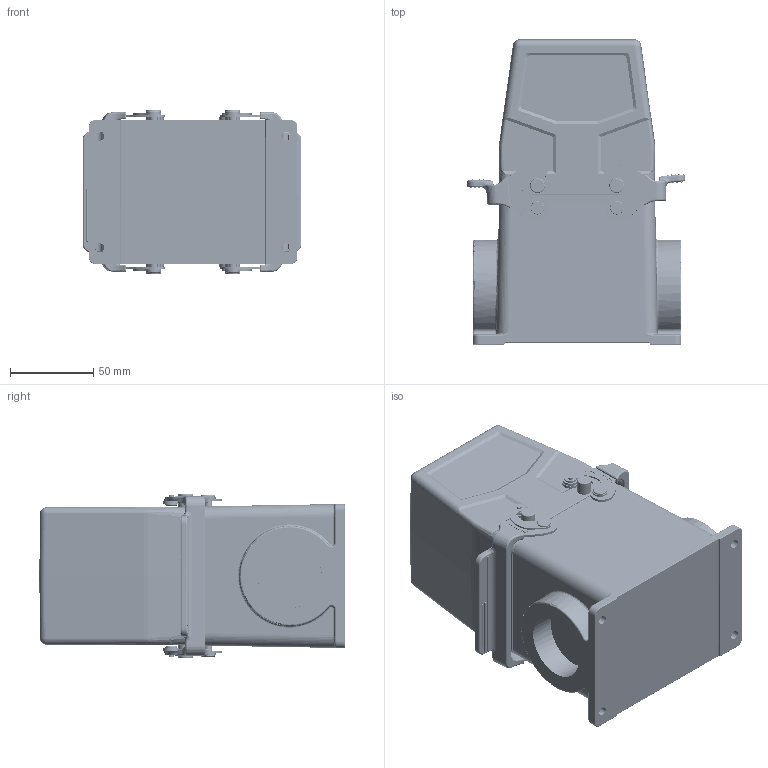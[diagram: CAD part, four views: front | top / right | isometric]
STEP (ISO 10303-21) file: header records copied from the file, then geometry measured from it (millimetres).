
FILE_DESCRIPTION (( 'STEP AP214' ), '1' );
FILE_NAME ('09132103232 HESH、32针、表面底座、侧出M32套件.STEP', '2024-04-29T05:27:06', ( 'L' ), ( '' ), 'SwSTEP 2.0', 'SolidWorks 2019', '' );
FILE_SCHEMA (( 'AUTOMOTIVE_DESIGN' ));
Length unit declared in the file: millimetre
Products named in the file (7): H32B-SGR-M32.step; HESH-016-F.stp; HESH-016-MD.stp; 09132103232 HESH、32针、表面底座、侧出M32套件; HESH-016-FD.stp; HESH-016-M.stp; H32B-TS-M32.step
Assembly tree (6 placements, depth 2):
  09132103232 HESH、32针、表面底座、侧出M32套件
    H32B-TS-M32.step
    HESH-016-M.stp
    HESH-016-F.stp
    HESH-016-MD.stp
    HESH-016-FD.stp
    H32B-SGR-M32.step
Bounding box: 131.12 x 183.1 x 98.5 mm (x, y, z)
Volume: 686893.2 mm3; surface area: 275520.1 mm2
Topology: 6 solids, 7 shells, 6943 faces, 18589 edges, 11951 vertices
Faces by surface type: plane 3724, cylinder 1725, cone 715, bspline 428, torus 210, sphere 141
Entity records: 287765 total; most frequent: CARTESIAN_POINT 98259, ORIENTED_EDGE 36666, DIRECTION 31022, EDGE_CURVE 18333, VERTEX_POINT 11938, LINE 10692, VECTOR 10692, AXIS2_PLACEMENT_3D 10165
